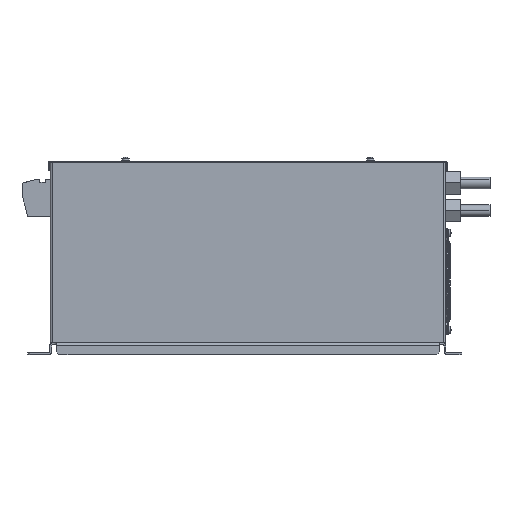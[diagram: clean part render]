
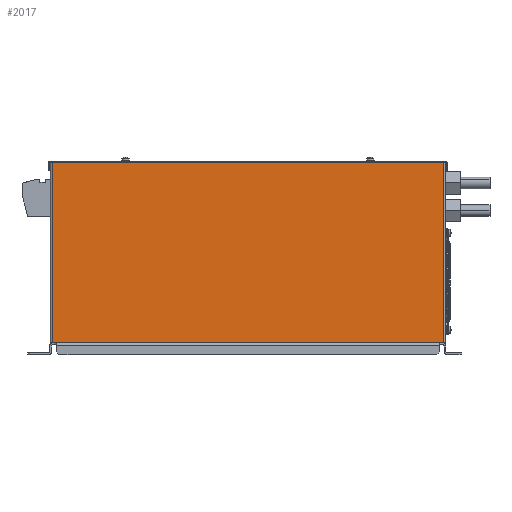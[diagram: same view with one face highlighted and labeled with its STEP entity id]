
A CAD part, left-side view. The second image highlights one B-rep face of the part: STEP entity #2017.
In plain terms, the highlighted planar face has unit normal (-1, 0, 0).
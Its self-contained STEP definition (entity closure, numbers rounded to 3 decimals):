
#1157 = EDGE_CURVE ( 'NONE', #1924, #1797, #6883, .T. ) ;
#1797 = VERTEX_POINT ( 'NONE', #13955 ) ;
#1800 = VERTEX_POINT ( 'NONE', #13962 ) ;
#1802 = EDGE_CURVE ( 'NONE', #1800, #1797, #13983, .T. ) ;
#1803 = EDGE_CURVE ( 'NONE', #1924, #1910, #13969, .T. ) ;
#1910 = VERTEX_POINT ( 'NONE', #17462 ) ;
#1924 = VERTEX_POINT ( 'NONE', #17538 ) ;
#2017 = ADVANCED_FACE ( 'NONE', ( #19672 ), #19725, .F. ) ;
#2031 = ORIENTED_EDGE ( 'NONE', *, *, #1157, .T. ) ;
#2032 = EDGE_LOOP ( 'NONE', ( #2031, #2055, #2124, #2050 ) ) ;
#2050 = ORIENTED_EDGE ( 'NONE', *, *, #1803, .F. ) ;
#2055 = ORIENTED_EDGE ( 'NONE', *, *, #1802, .F. ) ;
#2120 = EDGE_CURVE ( 'NONE', #1800, #1910, #28088, .T. ) ;
#2124 = ORIENTED_EDGE ( 'NONE', *, *, #2120, .T. ) ;
#6880 = DIRECTION ( 'NONE',  ( 0., 0., -1. ) ) ;
#6881 = VECTOR ( 'NONE', #6880, 1000. ) ;
#6882 = CARTESIAN_POINT ( 'NONE',  ( 0., -26.75, 208. ) ) ;
#6883 = LINE ( 'NONE', #6882, #6881 ) ;
#13955 = CARTESIAN_POINT ( 'NONE',  ( 0., -26.75, 13. ) ) ;
#13961 = DIRECTION ( 'NONE',  ( 0., 1., 0. ) ) ;
#13962 = CARTESIAN_POINT ( 'NONE',  ( 0., -450.25, 13. ) ) ;
#13967 = VECTOR ( 'NONE', #13987, 1000. ) ;
#13968 = CARTESIAN_POINT ( 'NONE',  ( 0., -24.5, 208. ) ) ;
#13969 = LINE ( 'NONE', #13968, #13967 ) ;
#13981 = VECTOR ( 'NONE', #13961, 1000. ) ;
#13982 = CARTESIAN_POINT ( 'NONE',  ( 0., -24.5, 13. ) ) ;
#13983 = LINE ( 'NONE', #13982, #13981 ) ;
#13987 = DIRECTION ( 'NONE',  ( 0., -1., 0. ) ) ;
#17462 = CARTESIAN_POINT ( 'NONE',  ( 0., -450.25, 208. ) ) ;
#17538 = CARTESIAN_POINT ( 'NONE',  ( 0., -26.75, 208. ) ) ;
#19672 = FACE_OUTER_BOUND ( 'NONE', #2032, .T. ) ;
#19725 = PLANE ( 'NONE',  #19730 ) ;
#19727 = DIRECTION ( 'NONE',  ( 0., 0., -1. ) ) ;
#19728 = DIRECTION ( 'NONE',  ( 1., 0., 0. ) ) ;
#19729 = CARTESIAN_POINT ( 'NONE',  ( 0., -24.5, 13. ) ) ;
#19730 = AXIS2_PLACEMENT_3D ( 'NONE', #19729, #19728, #19727 ) ;
#28082 = DIRECTION ( 'NONE',  ( 0., 0., 1. ) ) ;
#28084 = VECTOR ( 'NONE', #28082, 1000. ) ;
#28086 = CARTESIAN_POINT ( 'NONE',  ( 0., -450.25, 13. ) ) ;
#28088 = LINE ( 'NONE', #28086, #28084 ) ;
